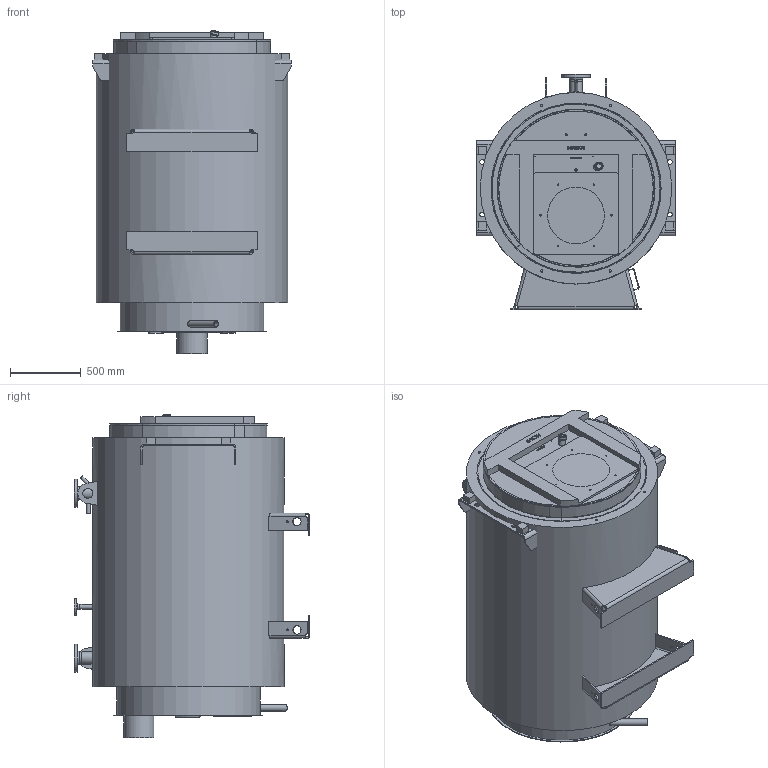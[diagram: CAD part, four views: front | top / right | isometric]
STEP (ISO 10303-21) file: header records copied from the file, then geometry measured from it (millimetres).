
FILE_DESCRIPTION(('TFLEX Exchange Step'),'2;1');
FILE_NAME('M22A021_7953201_H001.stp', '2024-08-01T13:49:30+03:00',('kort'),('Unknown organisation'),'TFLEX Exchange 2024.2','T-FLEX CAD','Unknown authorisation');
FILE_SCHEMA( ('AUTOMOTIVE_DESIGN { 1 0 10303 214 1 1 1 1 }') );
Length unit declared in the file: millimetre
Products named in the file (1): Nodes
Bounding box: 1400 x 1660 x 2278.7 mm (x, y, z)
Volume: 4408134965.6 mm3; surface area: 58909227.1 mm2
Topology: 159 solids, 160 shells, 1801 faces, 4151 edges, 2840 vertices
Faces by surface type: plane 895, cylinder 653, bspline 119, cone 86, torus 42, sphere 6
Full cylindrical faces by diameter (mm): 1 x16, 2.2 x4, 3.2 x4, 3.3 x4, 4 x6, 6.5 x4, 10 x12, 10.11 x6, 10.86 x15, 11.45 x1, 12 x48, 13 x4, 14 x68, 14.63 x6, 15.5 x15, 16 x4, 18 x16, 18.63 x1, 18.9 x1, 22 x6, 24 x4, 25.7 x1, 26.9 x2, 28.5 x1, 28.9 x1, 33.7 x2, 35 x7, 40 x4, 41.1 x1, 41.45 x1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
Entity records: 66834 total; most frequent: CARTESIAN_POINT 24116, DIRECTION 8954, ORIENTED_EDGE 8252, EDGE_CURVE 4126, AXIS2_PLACEMENT_3D 3523, VERTEX_POINT 2837, EDGE_LOOP 2249, FACE_BOUND 2249
